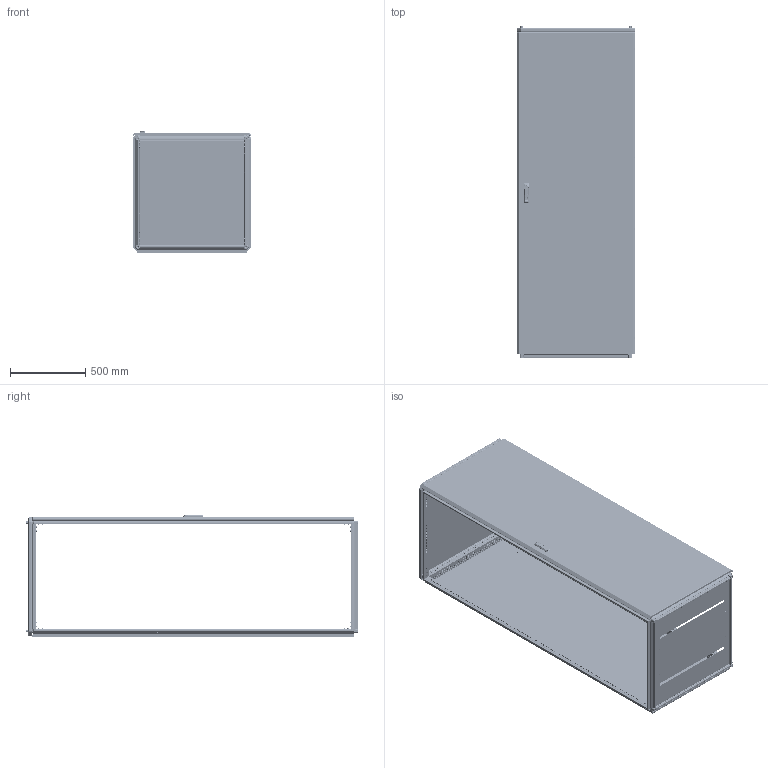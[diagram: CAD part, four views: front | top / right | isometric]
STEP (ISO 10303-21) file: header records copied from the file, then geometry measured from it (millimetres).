
FILE_DESCRIPTION (( 'STEP AP203' ), '1' );
FILE_NAME ('MA1.000.080822.10.00 AleSta2288 Øêàô AleSta 800õ800õ2200.STEP', '2024-08-23T08:51:03', ( '' ), ( '' ), 'SwSTEP 2.0', 'SolidWorks 2021', '' );
FILE_SCHEMA (( 'CONFIG_CONTROL_DESIGN' ));
Length unit declared in the file: millimetre
Products named in the file (49): Óïëîòíèòåëü ïàíåëè íèæíåé_ ‚=2200; Øïèëüêà Ì6õ12_˜¯¨«ìª  Œ6å12; MA1.101.060620.20.02 Çàêðûòèå íèæíåé ïàíåëè 600õ600_800x800; MA1.200.060620.30.00 AleSta-D20M600 Äâåðü ñïëîøíàÿ äëÿ øêàôîâ ALESTA ÂõØ 2000õ600_2200å800; Áîëò øåñòèãðàííûé Ì5õ12 DIN 933, êëàññ ïðî÷íîñòè 8.8, îöèíêîâàííàÿ ñòàëü; ﾇﾀﾊﾋﾅﾏﾊﾀ ﾃﾀﾅﾗﾍﾀﾟ ﾘﾅﾑﾒﾈﾃﾐﾀﾍﾍﾀﾟ ﾑ ﾓﾌﾅﾍﾜﾘﾅﾍﾍﾛﾌ ﾁﾎﾐﾒﾎﾌ M4 X 11 (0.5-2.5 ﾌﾌ) HEX U-S ﾖﾈﾍﾊ; Îñü ïåòëè 4õ52_‚¨­â A.M4x0,5x40 ƒŽ‘’ 11644-75; Íàâåñêà íà êîðïóñ ïîä êëåïêó; MA1.200.060620.31.03 Ðåéêà íà äâåðü ãîðèçîíòàëüíàÿ Ø = 600_˜=800; êðåïëåíèå_êðóãëîé_òÿãè_RG1020-1.stp; Øïèëüêà Ì6õ12_˜¯¨«ìª  Œ6å20; MA1.200.060620.31.05 Óãëîâîé óïîð äâåðíîé òÿãè; Øïèëüêà Ì6õ12_˜¯¨«ìª  Œ6å16; Âèíò ñàìîíàðåçàþùèé ñ ïîòàéíîé ãîëîâêîé Ì5x14 DIN 7500 M TORX, êëàññ ïðî÷íîñòè 8.8, îöèíêîâàííàÿ ñòàëü_Œ5å12; MA1.102.060620.00.01 Ïðîôèëü âåðòèêàëüíûé ñâàðíîé_05 L=2098 (‚=2200); MA1.200.060620.31.00 Äâåðü ñïëîøíàÿ äëÿ øêàôîâ ALESTA ÂõØ 2000õ600_2200å800; MA1.200.060620.31.01 Ïîëîòíî äâåðè ñïëîøíîé 2000õ600_2200å800; Øàéáà ñòîïîðíàÿ ñ íàðóæíûìè çóáöàìè SCHNORR, òèï VS öèíêîâûå õëîïüÿ Ì6 O6,4 ART 88121_Œ6; Âèíò ðåçüáîâûäàâëèâàþùèé Ì6õ12 DIN 7500E_Œ6å10; òÿãà_lg001-2.STEP_‚=2200; MA1.101.060620.20.00 Íèæíÿÿ ïàíåëü 600õ600_800å800; Ïðîáêà ïëàñòèêîâàÿ óíèâåðñàëüíàÿ ïîä îòâåðñòèå 4,5 ìì, ñåðèÿ ST, öâåò áåñöâåòíûé – ST4,5; MS463-2-3(1); Âèíò ñàìîíàðåçàþùèé ñ ïîòàéíîé ãîëîâêîé Ì5x14 DIN 7500 M TORX, êëàññ ïðî÷íîñòè 8.8, îöèíêîâàííàÿ ñòàëü_Œ5å14; MA1.101.060620.00.00 AleSta-RB66 Êîìïëåêò êðûøà è îñíîâàíèå_ 800å800; MA1.101.060620.10.01 Ïîëîòíî êðûøè 600õ600_800x800; 7380-2 ISO Âèíòû ñ ïîëóêðóãëîé ãîëîâêîé ñ ôëàíöåì ñ âíóòðåííèì øåñòèãðàííèêîì Ì4õ10; MA1.200.060620.31.04 ðèãåëü çàìêà äâåðè; 諘蜱齁罻 022 瀁錒瀔隮; Óïëîòíèòåëü ïàíåëè íèæíåé_800å800; äåðæàòåëü_êðóãëîé_òÿãèRG002-RG1010-2-i-RG1010-3-.stp; ﾘ琺矜 65ﾃ 019 ﾃﾎﾑﾒ 6402-70_12; Ãàéêà ñàìîêîíòðÿùàÿñÿ ñ íåéëîíîâîé âñòàâêîé Ì6 DIN 985, êëàññ ïðî÷íîñòè 8, îöèíêîâàííàÿ ñòàëü_Œ5; MA1.101.060620.00.02 Ïðîôèëü ïîïåðå÷íûé ñâàðíîé_02 L=698 (˜=800) ; MA1.100.060620.00.01 Ñîåäèíèòåëü óãëîâîé_00; MA1.000.080822.10.00 AleSta2288 Øêàô AleSta 800õ800õ2200; Âèíò_ðåçüáîâûäàâëèâàþùèé_Ì5õ12_DIN 7500E_Œ5å12; Âèíò ñ âí. øåñòèãðàííèêîì M12 DIN912_•30; Ãàéêà ñàìîêîíòðÿùàÿñÿ ñ íåéëîíîâîé âñòàâêîé Ì6 DIN 985, êëàññ ïðî÷íîñòè 8, îöèíêîâàííàÿ ñòàëü_Œ6; MA1.101.060620.20.01 Ïîëîòíî íèæíåé ïàíåëè 600õ600_800å800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
Assembly tree (337 placements, depth 4):
  Ïðîáêà ïëàñòèêîâàÿ óíèâåðñàëüíàÿ ïîä îòâåðñòèå 4,5 ìì, ñåðèÿ ST, öâåò áåñöâåòíûé – ST4,5
  MA1.000.080822.10.00 AleSta2288 Øêàô AleSta 800õ800õ2200
    MA1.101.060620.00.00 AleSta-RB66 Êîìïëåêò êðûøà è îñíîâàíèå_ 800å800
      MA1.101.060620.00.02 Ïðîôèëü ïîïåðå÷íûé ñâàðíîé_02 L=698 (˜=800)   x8
      MA1.101.060620.10.00 Êðûøà 600x600_800å800
        MA1.101.060620.10.01 Ïîëîòíî êðûøè 600õ600_800x800
        Øïèëüêà Ì6õ12_˜¯¨«ìª  Œ6å12  x4
        Óïëîòíèòåëü ïàíåëè íèæíåé_800å800
      MA1.101.060620.20.00 Íèæíÿÿ ïàíåëü 600õ600_800å800
        MA1.101.060620.20.01 Ïîëîòíî íèæíåé ïàíåëè 600õ600_800å800
        ﾇﾀﾊﾋﾅﾏﾊﾀ ﾃﾀﾅﾗﾍﾀﾟ ﾘﾅﾑﾒﾈﾃﾐﾀﾍﾍﾀﾟ ﾑ ﾓﾌﾅﾍﾜﾘﾅﾍﾍﾛﾌ ﾁﾎﾐﾒﾎﾌ M4 X 11 (0.5-2.5 ﾌﾌ) HEX U-S ﾖﾈﾍﾊ  x4
        MA1.101.060620.20.02 Çàêðûòèå íèæíåé ïàíåëè 600õ600_800x800  x2
        7380-2 ISO Âèíòû ñ ïîëóêðóãëîé ãîëîâêîé ñ ôëàíöåì ñ âíóòðåííèì øåñòèãðàííèêîì Ì4õ10  x4
      Âèíò_ðåçüáîâûäàâëèâàþùèé_Ì5õ12_DIN 7500E_Œ5å12  x8
      MA1.100.060620.00.01 Ñîåäèíèòåëü óãëîâîé_00  x8
      Âèíò ñ âí. øåñòèãðàííèêîì M12 DIN912_•30  x4
      Âèíò ðåçüáîâûäàâëèâàþùèé Ì6õ12 DIN 7500E_Œ6å10  x96
      ﾘ琺矜 01.019 ﾃﾎﾑﾒ11371-78_12  x4
      ﾘ琺矜 65ﾃ 019 ﾃﾎﾑﾒ 6402-70_12  x4
      Øàéáà ñòîïîðíàÿ ñ íàðóæíûìè çóáöàìè SCHNORR, òèï VS öèíêîâûå õëîïüÿ Ì6 O6,4 ART 88121_Œ6  x80
    MA1.102.060620.00.00 AleSta-VG2000 Ñòîéêè âåðòèêàëüíûå, Â=2000ìì  (4øò)_ 800å800
      MA1.102.060620.00.01 Ïðîôèëü âåðòèêàëüíûé ñâàðíîé_05 L=2098 (‚=2200)  x4
    MA1.200.060620.10.00 AleSta-PR206  Ïàíåëü çàäíÿÿ, äëÿ øêàôîâ ALESTA, 2000 x 600_2200å800
      MA1.200.060620.11.00 Ïàíåëü çàäíÿÿ, äëÿ øêàôîâ AleSta, 2000x600_2200å800
        MA1.200.060620.11.01 Ïîëîòíî çàäíåé ïàíåëè 2000õ600_2200å800
        Óïëîòíèòåëü ïàíåëè íèæíåé_ ‚=2200
        Øïèëüêà Ì6õ12_˜¯¨«ìª  Œ6å12  x4
      Âèíò ñàìîíàðåçàþùèé ñ ïîòàéíîé ãîëîâêîé Ì5x14 DIN 7500 M TORX, êëàññ ïðî÷íîñòè 8.8, îöèíêîâàííàÿ ñòàëü_Œ5å14  x8
    MA1.200.060620.30.00 AleSta-D20M600 Äâåðü ñïëîøíàÿ äëÿ øêàôîâ ALESTA ÂõØ 2000õ600_2200å800
      MA1.200.060620.31.00 Äâåðü ñïëîøíàÿ äëÿ øêàôîâ ALESTA ÂõØ 2000õ600_2200å800
        MA1.200.060620.31.01 Ïîëîòíî äâåðè ñïëîøíîé 2000õ600_2200å800
        Óïëîòíèòåëü ïàíåëè íèæíåé_ ‚=2200
        Øïèëüêà Ì6õ12_˜¯¨«ìª  Œ6å20  x16
        Øïèëüêà Ì6õ12_˜¯¨«ìª  Œ6å16  x4
        Ïåòëÿ íà äâåðü ï-îáðàçíàÿ  x4
      MA1.200.060620.31.03 Ðåéêà íà äâåðü ãîðèçîíòàëüíàÿ Ø = 600_˜=800  x2
      諘蜱齁罻 022 瀁錒瀔隮  x4
      MA1.200.060620.31.02 Ðåéêà íà äâåðü âåðòèêàëüíàÿ Â = 2000_‚ = 2200  x2
      äåðæàòåëü_êðóãëîé_òÿãèRG002-RG1010-2-i-RG1010-3-.stp  x2
      òÿãà_lg001-2.STEP_‚=2200  x2
      êðåïëåíèå_êðóãëîé_òÿãè_RG1020-1.stp  x2
      MS463-2-3(1)
      Ãàéêà ñàìîêîíòðÿùàÿñÿ ñ íåéëîíîâîé âñòàâêîé Ì6 DIN 985, êëàññ ïðî÷íîñòè 8, îöèíêîâàííàÿ ñòàëü_Œ6  x16
      Ãàéêà ñàìîêîíòðÿùàÿñÿ ñ íåéëîíîâîé âñòàâêîé Ì6 DIN 985, êëàññ ïðî÷íîñòè 8, îöèíêîâàííàÿ ñòàëü_Œ5  x2
      Áîëò øåñòèãðàííûé Ì5õ12 DIN 933, êëàññ ïðî÷íîñòè 8.8, îöèíêîâàííàÿ ñòàëü  x2
      MA1.200.060620.31.04 ðèãåëü çàìêà äâåðè
      MA1.200.060620.31.05 Óãëîâîé óïîð äâåðíîé òÿãè  x2
      Âèíò_ðåçüáîâûäàâëèâàþùèé_Ì5õ12_DIN 7500E_00  x2
      Íàâåñêà íà êîðïóñ ïîä êëåïêó  x4
      Îñü ïåòëè 4õ52_‚¨­â A.M4x0,5x40 ƒŽ‘’ 11644-75  x4
      Âèíò ñàìîíàðåçàþùèé ñ ïîòàéíîé ãîëîâêîé Ì5x14 DIN 7500 M TORX, êëàññ ïðî÷íîñòè 8.8, îöèíêîâàííàÿ ñòàëü_Œ5å12  x8
Bounding box: 792 x 2210.9 x 816.8 mm (x, y, z)
Volume: 11926835 mm3; surface area: 15872254.1 mm2
Topology: 364 solids, 378 shells, 25035 faces, 65142 edges, 40936 vertices
Faces by surface type: plane 15017, cylinder 7325, bspline 921, cone 845, torus 829, sphere 98
Entity records: 247325 total; most frequent: CARTESIAN_POINT 79635, ORIENTED_EDGE 32094, DIRECTION 31506, EDGE_CURVE 16064, AXIS2_PLACEMENT_3D 10812, VERTEX_POINT 10049, VECTOR 9882, LINE 9882
